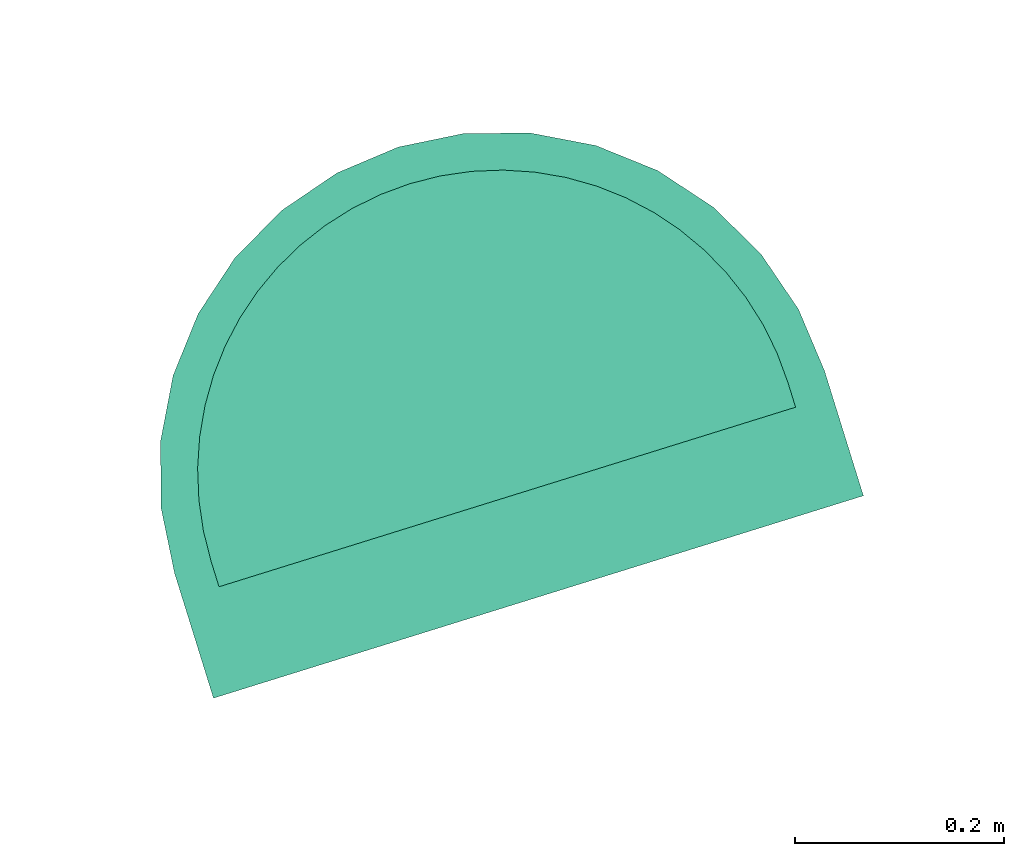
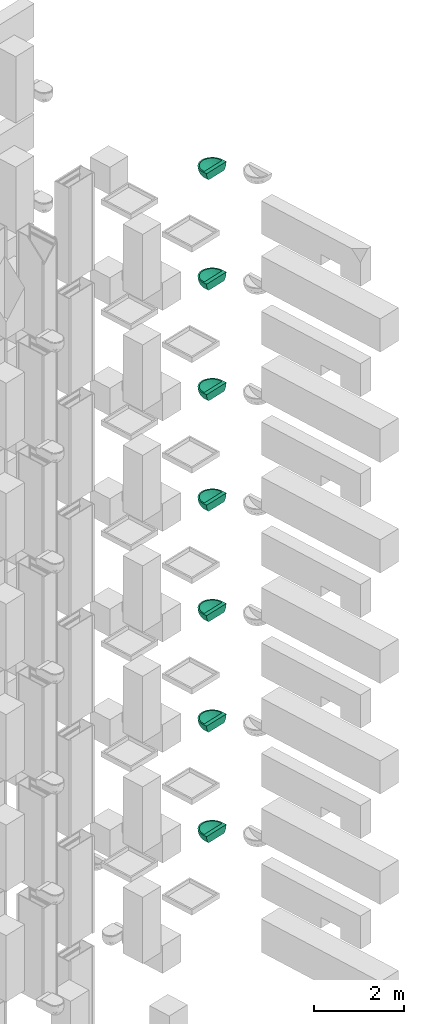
# Not in any storey, part 12 of 20: 7 sanitary terminals.
"""IFC4 model written with IfcOpenShell, lengths in metres."""

from ifc_helpers import new_model, entity, si_unit, converted_unit, direction, frame, origin, place, context, subcontext, project, polygons, source, transform, mapped, material, type_object, type_shapes, element, save


model = new_model("IFC4")

# Units and contexts
model_context = context("Model", 3, precision=1e-05, world=origin(), true_north=direction((6.12323399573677e-17, 1.0)))
body_context = subcontext(model_context, "Body", "Model", "MODEL_VIEW")
ifc_project = project(units=[si_unit("LENGTHUNIT", "METRE"), si_unit("AREAUNIT", "SQUARE_METRE"), si_unit("VOLUMEUNIT", "CUBIC_METRE"), converted_unit("PLANEANGLEUNIT", "DEGREE", entity("IfcPlaneAngleMeasure", 0.0174532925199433), si_unit("PLANEANGLEUNIT", "RADIAN"), dimensions=[0, 0, 0, 0, 0, 0, 0])], contexts=[model_context])

# Sanitary terminals
ifc_material = material(Name="<Unnamed>")
sanitary_terminal_type = type_object("IfcSanitaryTerminalType", Name="NLRS_74_PF_WB_wastafel_gen:wastafel", PredefinedType="SINK", material=ifc_material)
shared_shape = source(origin(), body_context, "Body", "Tessellation", [
    polygons([(0.346918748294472, 0.250000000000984, -6.7), (0.346918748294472, 0.124999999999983, -6.7), (0.342460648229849, 0.124999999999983, -6.75364597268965), (0.32922351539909, 0.124999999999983, -6.80577703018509), (0.307569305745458, 0.124999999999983, -6.85501212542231), (0.278092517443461, 0.124999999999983, -6.9), (0.278092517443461, 0.250000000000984, -6.9), (0.307575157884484, 0.250000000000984, -6.85500134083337), (0.329230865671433, 0.250000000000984, -6.8057556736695), (0.34246627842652, 0.250000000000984, -6.75361232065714), (-0.303081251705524, 0.250000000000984, -6.7), (-0.303081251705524, 0.124999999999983, -6.7), (0.021918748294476, 0.124999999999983, -6.7), (0.021918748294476, 0.225000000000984, -6.7), (-0.266395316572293, 0.225000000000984, -6.7), (-0.266395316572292, 0.250000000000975, -6.7), (-0.264816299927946, 0.280133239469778, -6.7), (-0.260095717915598, 0.309940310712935, -6.7), (-0.252285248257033, 0.339090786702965, -6.7), (-0.241470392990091, 0.367265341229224, -6.7), (-0.227769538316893, 0.394155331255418, -6.7), (-0.21133265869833, 0.419466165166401, -6.7), (-0.192339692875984, 0.442920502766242, -6.7), (-0.170998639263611, 0.464261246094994, -6.7), (-0.147543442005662, 0.483254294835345, -6.7), (-0.122231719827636, 0.499691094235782, -6.7), (-0.0953421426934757, 0.513391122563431, -6.7), (-0.0671705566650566, 0.524204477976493, -6.7), (-0.0380241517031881, 0.532013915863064, -6.7), (-0.00821701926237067, 0.536734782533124, -6.7), (0.021918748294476, 0.538314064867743, -6.7), (0.021918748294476, 0.575000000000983, -6.7), (-0.0414856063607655, 0.568755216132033, -6.7), (-0.102453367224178, 0.550260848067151, -6.7), (-0.158641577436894, 0.52022762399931, -6.7), (-0.207890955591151, 0.479809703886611, -6.7), (-0.248308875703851, 0.430560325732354, -6.7), (-0.278342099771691, 0.374372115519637, -6.7), (-0.296836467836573, 0.313404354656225, -6.7), (0.340673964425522, 0.313404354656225, -6.7), (0.32217959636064, 0.374372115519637, -6.7), (0.292146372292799, 0.430560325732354, -6.7), (0.2517284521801, 0.479809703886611, -6.7), (0.202479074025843, 0.52022762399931, -6.7), (0.146290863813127, 0.550260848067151, -6.7), (0.0853231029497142, 0.568755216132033, -6.7), (0.0520545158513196, 0.536734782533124, -6.7), (0.0818616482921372, 0.532013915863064, -6.7), (0.111008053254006, 0.524204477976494, -6.7), (0.139179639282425, 0.513391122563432, -6.7), (0.166069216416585, 0.499691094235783, -6.7), (0.191380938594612, 0.483254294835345, -6.7), (0.214836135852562, 0.464261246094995, -6.7), (0.236177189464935, 0.442920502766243, -6.7), (0.255170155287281, 0.419466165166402, -6.7), (0.271607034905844, 0.394155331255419, -6.7), (0.285307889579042, 0.367265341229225, -6.7), (0.296122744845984, 0.339090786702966, -6.7), (0.303933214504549, 0.309940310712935, -6.7), (0.308653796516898, 0.280133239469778, -6.7), (0.310232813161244, 0.250000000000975, -6.7), (0.310232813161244, 0.225000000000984, -6.7), (-0.298628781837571, 0.250000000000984, -6.75361232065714), (-0.285393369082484, 0.250000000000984, -6.8057556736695), (-0.263737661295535, 0.250000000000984, -6.85500134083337), (-0.234255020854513, 0.250000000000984, -6.9), (-0.234255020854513, 0.124999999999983, -6.9), (-0.26372299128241, 0.124999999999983, -6.85502837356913), (-0.285382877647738, 0.124999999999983, -6.80578615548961), (-0.298623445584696, 0.124999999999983, -6.75364421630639), (0.27659082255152, 0.277697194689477, -6.9), (0.272103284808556, 0.305069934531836, -6.9), (0.264682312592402, 0.331797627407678, -6.9), (0.254414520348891, 0.357567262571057, -6.9), (0.24141970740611, 0.38207698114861, -6.9), (0.225849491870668, 0.405039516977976, -6.9), (0.207885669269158, 0.426185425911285, -6.9), (0.18773840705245, 0.445266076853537, -6.9), (0.165644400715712, 0.46205644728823, -6.9), (0.141864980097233, 0.476357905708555, -6.9), (0.11668363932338, 0.488001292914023, -6.9), (0.0904016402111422, 0.496850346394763, -6.9), (0.0633306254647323, 0.502804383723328, -6.9), (0.0357845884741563, 0.505798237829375, -6.9), (0.00807674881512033, 0.50579952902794, -6.9), (-0.0194777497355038, 0.502806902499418, -6.9), (-0.0465597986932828, 0.496851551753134, -6.9), (-0.0728496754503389, 0.487999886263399, -6.9), (-0.0980340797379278, 0.476354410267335, -6.9), (-0.121813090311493, 0.462052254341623, -6.9), (-0.1439051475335, 0.445262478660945, -6.9), (-0.164050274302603, 0.426183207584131, -6.9), (-0.182012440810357, 0.40503893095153, -6.9), (-0.197581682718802, 0.382077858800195, -6.9), (-0.210576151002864, 0.357569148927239, -6.9), (-0.220844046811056, 0.331799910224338, -6.9), (-0.228265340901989, 0.305071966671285, -6.9), (-0.232753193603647, 0.277698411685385, -6.9), (-0.257045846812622, 0.372316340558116, -6.81332461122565), (0.300884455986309, 0.372313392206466, -6.81332505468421), (-0.0097834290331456, 0.571877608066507, -6.7), (-0.205655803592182, 0.453737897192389, -6.81102113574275), (0.249493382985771, 0.453737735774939, -6.81102126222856), (0.0536209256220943, 0.571877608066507, -6.7), (0.021933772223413, 0.556913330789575, -6.80690747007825), (-0.0719694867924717, 0.559508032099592, -6.7), (0.11580698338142, 0.559508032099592, -6.7), (-0.0425022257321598, 0.546258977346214, -6.81707073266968), (-0.165040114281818, 0.491191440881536, -6.81179477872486), (0.20887408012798, 0.49119811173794, -6.81178629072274), (0.0863501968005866, 0.546256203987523, -6.8170719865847), (-0.23446246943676, 0.3802654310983, -6.85140868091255), (0.278301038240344, 0.380263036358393, -6.85140892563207), (-0.120243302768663, 0.518687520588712, -6.81498681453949), (0.164074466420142, 0.518691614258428, -6.81498507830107), (-0.233336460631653, 0.433005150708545, -6.78353976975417), (0.277175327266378, 0.433003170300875, -6.78353992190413), (-0.290060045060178, 0.315925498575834, -6.76283359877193), (0.333897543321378, 0.315925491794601, -6.76283359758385), (-0.275008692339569, 0.312028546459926, -6.81666856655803), (-0.254394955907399, 0.314447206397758, -6.85850014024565), (-0.272362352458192, 0.371908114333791, -6.76451391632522), (0.31884634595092, 0.312026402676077, -6.81666930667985), (0.298232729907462, 0.314444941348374, -6.85850057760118), (0.316201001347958, 0.371905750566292, -6.76451312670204), (-0.0755829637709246, 0.549402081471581, -6.78047862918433), (-0.0690330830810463, 0.524635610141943, -6.84808121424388), (0.119420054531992, 0.549406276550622, -6.7804635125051), (0.112885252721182, 0.524636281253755, -6.84807095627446), (-0.228099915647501, 0.455185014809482, -6.7), (0.27193741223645, 0.455185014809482, -6.7), (-0.183266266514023, 0.50001866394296, -6.7), (0.227103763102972, 0.50001866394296, -6.7), (-0.130547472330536, 0.53524423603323, -6.7), (0.174384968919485, 0.53524423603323, -6.7), (-0.234514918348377, 0.250000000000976, -6.74966665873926), (-0.194178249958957, 0.250000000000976, -6.79274902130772), (-0.146715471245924, 0.250000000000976, -6.82782638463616), (-0.0936917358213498, 0.250000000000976, -6.85374202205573), (-0.0368555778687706, 0.250000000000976, -6.86964132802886), (0.0219187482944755, 0.250000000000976, -6.875), (0.0806930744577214, 0.250000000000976, -6.86964132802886), (0.137529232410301, 0.250000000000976, -6.85374202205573), (0.190552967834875, 0.250000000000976, -6.82782638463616), (0.238015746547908, 0.250000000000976, -6.79274902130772), (0.278352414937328, 0.250000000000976, -6.74966665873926), (-0.119627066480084, 0.397173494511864, -6.80284332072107), (0.16346455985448, 0.397173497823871, -6.8028433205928), (-0.200517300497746, 0.337511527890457, -6.77020203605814), (0.244354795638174, 0.337511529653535, -6.77020203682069), (-0.162633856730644, 0.422041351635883, -6.75485875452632), (0.206471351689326, 0.422041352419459, -6.75485875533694), (0.00220012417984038, 0.442185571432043, -6.81134437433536), (-0.0912046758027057, 0.468814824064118, -6.76200981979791), (0.135042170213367, 0.468814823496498, -6.76200982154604), (0.0498196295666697, 0.355825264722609, -6.85601887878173), (-0.0620730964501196, 0.341760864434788, -6.85025041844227), (0.160889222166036, 0.323929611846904, -6.83433540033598), (0.0405814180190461, 0.492340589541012, -6.76574926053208), (0.0863370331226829, 0.429389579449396, -6.81323879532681), (-0.00909478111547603, 0.495066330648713, -6.76120050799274), (-0.0478694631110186, 0.456606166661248, -6.79097405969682), (-0.0422183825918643, 0.402597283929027, -6.82968821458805), (-0.00740806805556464, 0.361981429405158, -6.8536858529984), (-0.00719351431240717, 0.303117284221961, -6.869305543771), (-0.0504034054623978, 0.497275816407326, -6.7481140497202), (0.115439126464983, 0.373042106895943, -6.83590134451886), (0.101584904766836, 0.312319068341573, -6.85886022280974), (-0.144773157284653, 0.326326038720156, -6.81835264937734), (0.086060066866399, 0.493745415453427, -6.75518056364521), (-0.234512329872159, 0.225000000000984, -6.74966998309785), (-0.19417475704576, 0.225000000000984, -6.79275213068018), (-0.146711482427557, 0.225000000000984, -6.8278288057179), (-0.0936885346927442, 0.225000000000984, -6.85374324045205), (-0.0368543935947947, 0.225000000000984, -6.869641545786), (0.021917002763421, 0.225000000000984, -6.87499999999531), (0.080687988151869, 0.225000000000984, -6.86964226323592), (0.137520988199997, 0.225000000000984, -6.85374515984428), (0.19054233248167, 0.225000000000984, -6.82783283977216), (0.238003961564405, 0.225000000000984, -6.79275951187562), (0.278341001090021, 0.225000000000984, -6.74968131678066)], [[[7, 8, 5]], [[5, 6, 7]], [[4, 5, 8]], [[8, 9, 4]], [[10, 1, 2]], [[10, 3, 9]], [[3, 10, 2]], [[9, 3, 4]], [[32, 101, 33, 106, 34, 134, 35, 132, 36, 130, 37, 38, 39, 11, 12, 13, 2, 1, 40, 41, 42, 131, 43, 133, 44, 135, 45, 107, 46, 104], [31, 47, 48, 49, 50, 51, 52, 53, 54, 55, 56, 57, 58, 59, 60, 61, 62, 14, 15, 16, 17, 18, 19, 20, 21, 22, 23, 24, 25, 26, 27, 28, 29, 30]], [[11, 63, 12]], [[63, 70, 12]], [[70, 63, 64]], [[70, 64, 69]], [[65, 66, 68]], [[65, 68, 69]], [[68, 66, 67]], [[65, 69, 64]], [[13, 12, 70, 69, 68, 67, 6, 5, 4, 3, 2]], [[109, 102, 35]], [[41, 125, 42]], [[100, 123, 124]], [[109, 91, 92]], [[112, 116, 102]], [[92, 93, 109]], [[75, 113, 74]], [[102, 109, 93]], [[91, 109, 114]], [[119, 123, 125]], [[87, 88, 127]], [[108, 101, 105]], [[119, 125, 41]], [[85, 86, 108]], [[34, 114, 109]], [[108, 126, 33]], [[113, 117, 100]], [[126, 127, 114]], [[90, 114, 89]], [[106, 114, 34]], [[126, 106, 33]], [[124, 72, 73]], [[94, 112, 102]], [[39, 38, 118]], [[114, 106, 126]], [[63, 118, 64]], [[122, 99, 120]], [[39, 63, 11]], [[118, 63, 39]], [[117, 43, 131]], [[103, 117, 113]], [[122, 38, 37]], [[87, 127, 108]], [[85, 108, 105]], [[97, 121, 96]], [[95, 96, 112]], [[115, 78, 79]], [[116, 36, 132]], [[66, 65, 121]], [[105, 84, 85]], [[64, 120, 65]], [[121, 65, 120]], [[127, 89, 114]], [[104, 111, 105]], [[121, 112, 96]], [[93, 94, 102]], [[99, 130, 116]], [[121, 98, 66]], [[127, 126, 108]], [[111, 104, 46]], [[8, 7, 124]], [[94, 95, 112]], [[105, 101, 32]], [[104, 105, 32]], [[105, 111, 84]], [[101, 108, 33]], [[111, 82, 83]], [[80, 115, 79]], [[115, 107, 45]], [[110, 44, 103]], [[120, 118, 122]], [[112, 121, 99]], [[76, 110, 103]], [[114, 90, 91]], [[129, 111, 128]], [[117, 131, 100]], [[110, 78, 115]], [[103, 75, 76]], [[84, 111, 83]], [[120, 99, 121]], [[128, 111, 46]], [[38, 122, 118]], [[116, 112, 99]], [[34, 109, 35, 134]], [[77, 78, 110]], [[76, 77, 110]], [[82, 111, 129]], [[103, 133, 117]], [[75, 103, 113]], [[86, 87, 108]], [[8, 124, 123]], [[73, 113, 124]], [[128, 46, 107]], [[113, 100, 124]], [[73, 74, 113]], [[123, 9, 8]], [[7, 71, 124]], [[118, 120, 64]], [[119, 40, 10]], [[80, 81, 129]], [[103, 44, 133]], [[122, 130, 99]], [[1, 10, 40]], [[119, 10, 9]], [[116, 132, 102]], [[123, 100, 125]], [[71, 72, 124]], [[40, 119, 41]], [[110, 45, 135, 44]], [[121, 97, 98]], [[130, 36, 116]], [[125, 100, 131]], [[123, 119, 9]], [[127, 88, 89]], [[107, 115, 128]], [[115, 80, 129]], [[115, 129, 128]], [[82, 129, 81]], [[130, 122, 37]], [[131, 42, 125]], [[35, 102, 132]], [[43, 117, 133]], [[45, 110, 115]], [[26, 25, 151]], [[156, 153, 164]], [[24, 23, 151]], [[165, 168, 156]], [[163, 164, 153]], [[149, 151, 21]], [[154, 27, 26]], [[157, 163, 147]], [[31, 161, 159]], [[159, 160, 170]], [[157, 169, 139]], [[163, 153, 162]], [[161, 166, 162]], [[30, 161, 31]], [[154, 26, 151]], [[161, 162, 153]], [[154, 162, 166]], [[164, 163, 157]], [[18, 149, 19]], [[154, 166, 28]], [[18, 17, 136]], [[167, 160, 156]], [[158, 167, 168]], [[136, 17, 16]], [[20, 19, 149]], [[30, 29, 166]], [[169, 149, 137]], [[139, 169, 138]], [[156, 168, 167]], [[137, 149, 136]], [[136, 149, 18]], [[151, 23, 22]], [[20, 149, 21]], [[145, 150, 144]], [[27, 154, 28]], [[22, 21, 151]], [[164, 165, 156]], [[24, 151, 25]], [[162, 154, 147]], [[140, 165, 157]], [[161, 153, 159]], [[148, 155, 160]], [[152, 51, 155]], [[148, 158, 150]], [[168, 142, 143]], [[155, 50, 49]], [[48, 47, 170]], [[52, 51, 152]], [[54, 53, 152]], [[163, 162, 147]], [[152, 150, 56]], [[160, 159, 153]], [[170, 155, 49]], [[152, 56, 55]], [[160, 167, 148]], [[53, 52, 152]], [[140, 141, 165]], [[57, 56, 150]], [[51, 50, 155]], [[140, 157, 139]], [[144, 150, 158]], [[158, 143, 144]], [[148, 150, 152]], [[147, 149, 169]], [[165, 164, 157]], [[147, 154, 151]], [[145, 146, 150]], [[166, 161, 30]], [[28, 166, 29]], [[146, 59, 150]], [[61, 60, 146]], [[59, 146, 60]], [[47, 31, 159]], [[55, 54, 152]], [[168, 165, 141]], [[150, 59, 58]], [[57, 150, 58]], [[147, 151, 149]], [[158, 148, 167]], [[49, 48, 170]], [[156, 160, 153]], [[148, 152, 155]], [[158, 168, 143]], [[141, 142, 168]], [[147, 169, 157]], [[138, 169, 137]], [[155, 170, 160]], [[159, 170, 47]], [[16, 15, 136]], [[136, 171, 137]], [[139, 138, 173]], [[172, 138, 137]], [[140, 139, 174]], [[136, 15, 171]], [[137, 171, 172]], [[140, 175, 176]], [[139, 173, 174]], [[140, 174, 175]], [[173, 138, 172]], [[176, 141, 140]], [[142, 141, 177]], [[142, 178, 143]], [[145, 144, 180]], [[179, 144, 143]], [[146, 145, 181]], [[178, 142, 177]], [[179, 143, 178]], [[180, 181, 145]], [[144, 179, 180]], [[62, 146, 181]], [[146, 62, 61]], [[176, 177, 141]], [[181, 180, 179, 178, 177, 176, 175, 174, 173, 172, 171, 15, 14, 62]], [[6, 67, 66, 98, 97, 96, 95, 94, 93, 92, 91, 90, 89, 88, 87, 86, 85, 84, 83, 82, 81, 80, 79, 78, 77, 76, 75, 74, 73, 72, 71, 7]]], closed=True),
])
type_shapes(sanitary_terminal_type, [shared_shape])
placement_1 = place(None, frame((13.1347999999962, 11.9886000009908, 0.0), z_axis=(0.0, 0.0, 1.0), x_axis=(0.954770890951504, 0.297342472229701, 0.0)))
placement_2 = place(placement_1, origin())
placement_3 = place(placement_2, frame((0.0, 0.0, 6.9)))
placement_4 = place(placement_3, origin())
sanitary_terminal_1_placement = place(placement_4, frame((22.1530812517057, 11.9, 7.4)))
element("IfcSanitaryTerminal", 1, at=sanitary_terminal_1_placement, type_object=sanitary_terminal_type, material=ifc_material, Name="NLRS_74_PF_WB_wastafel_gen:wastafel", ObjectType="NLRS_74_PF_WB_wastafel_gen:wastafel", PredefinedType="SINK", context=body_context, shape_type="MappedRepresentation", body=[
    mapped(shared_shape, transform((0.0, 0.0, 0.0), scale=1.0)),
])
placement_5 = place(placement_2, frame((0.0, 0.0, 9.9)))
placement_6 = place(placement_5, origin())
sanitary_terminal_2_placement = place(placement_6, frame((22.1530812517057, 11.9, 7.4)))
element("IfcSanitaryTerminal", 2, at=sanitary_terminal_2_placement, type_object=sanitary_terminal_type, material=ifc_material, Name="NLRS_74_PF_WB_wastafel_gen:wastafel", ObjectType="NLRS_74_PF_WB_wastafel_gen:wastafel", PredefinedType="SINK", context=body_context, shape_type="MappedRepresentation", body=[
    mapped(shared_shape, transform((0.0, 0.0, 0.0), scale=1.0)),
])
placement_7 = place(placement_2, frame((0.0, 0.0, 12.9)))
placement_8 = place(placement_7, origin())
sanitary_terminal_3_placement = place(placement_8, frame((22.1530812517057, 11.9, 7.4)))
element("IfcSanitaryTerminal", 3, at=sanitary_terminal_3_placement, type_object=sanitary_terminal_type, material=ifc_material, Name="NLRS_74_PF_WB_wastafel_gen:wastafel", ObjectType="NLRS_74_PF_WB_wastafel_gen:wastafel", PredefinedType="SINK", context=body_context, shape_type="MappedRepresentation", body=[
    mapped(shared_shape, transform((0.0, 0.0, 0.0), scale=1.0)),
])
placement_9 = place(placement_2, frame((0.0, 0.0, 15.9)))
placement_10 = place(placement_9, origin())
sanitary_terminal_4_placement = place(placement_10, frame((22.1530812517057, 11.9, 7.4)))
element("IfcSanitaryTerminal", 4, at=sanitary_terminal_4_placement, type_object=sanitary_terminal_type, material=ifc_material, Name="NLRS_74_PF_WB_wastafel_gen:wastafel", ObjectType="NLRS_74_PF_WB_wastafel_gen:wastafel", PredefinedType="SINK", context=body_context, shape_type="MappedRepresentation", body=[
    mapped(shared_shape, transform((0.0, 0.0, 0.0), scale=1.0)),
])
placement_11 = place(placement_2, frame((0.0, 0.0, 18.9)))
placement_12 = place(placement_11, origin())
sanitary_terminal_5_placement = place(placement_12, frame((22.1530812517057, 11.9, 7.4)))
element("IfcSanitaryTerminal", 5, at=sanitary_terminal_5_placement, type_object=sanitary_terminal_type, material=ifc_material, Name="NLRS_74_PF_WB_wastafel_gen:wastafel", ObjectType="NLRS_74_PF_WB_wastafel_gen:wastafel", PredefinedType="SINK", context=body_context, shape_type="MappedRepresentation", body=[
    mapped(shared_shape, transform((0.0, 0.0, 0.0), scale=1.0)),
])
placement_13 = place(placement_2, frame((0.0, 0.0, 21.9)))
placement_14 = place(placement_13, origin())
sanitary_terminal_6_placement = place(placement_14, frame((22.1530812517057, 11.9, 7.4)))
element("IfcSanitaryTerminal", 6, at=sanitary_terminal_6_placement, type_object=sanitary_terminal_type, material=ifc_material, Name="NLRS_74_PF_WB_wastafel_gen:wastafel", ObjectType="NLRS_74_PF_WB_wastafel_gen:wastafel", PredefinedType="SINK", context=body_context, shape_type="MappedRepresentation", body=[
    mapped(shared_shape, transform((0.0, 0.0, 0.0), scale=1.0)),
])
placement_15 = place(placement_2, frame((0.0, 0.0, 24.9)))
placement_16 = place(placement_15, origin())
sanitary_terminal_7_placement = place(placement_16, frame((22.1530812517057, 11.9, 7.4)))
element("IfcSanitaryTerminal", 7, at=sanitary_terminal_7_placement, type_object=sanitary_terminal_type, material=ifc_material, Name="NLRS_74_PF_WB_wastafel_gen:wastafel", ObjectType="NLRS_74_PF_WB_wastafel_gen:wastafel", PredefinedType="SINK", context=body_context, shape_type="MappedRepresentation", body=[
    mapped(shared_shape, transform((0.0, 0.0, 0.0), scale=1.0)),
])

save(model, "model.ifc")
